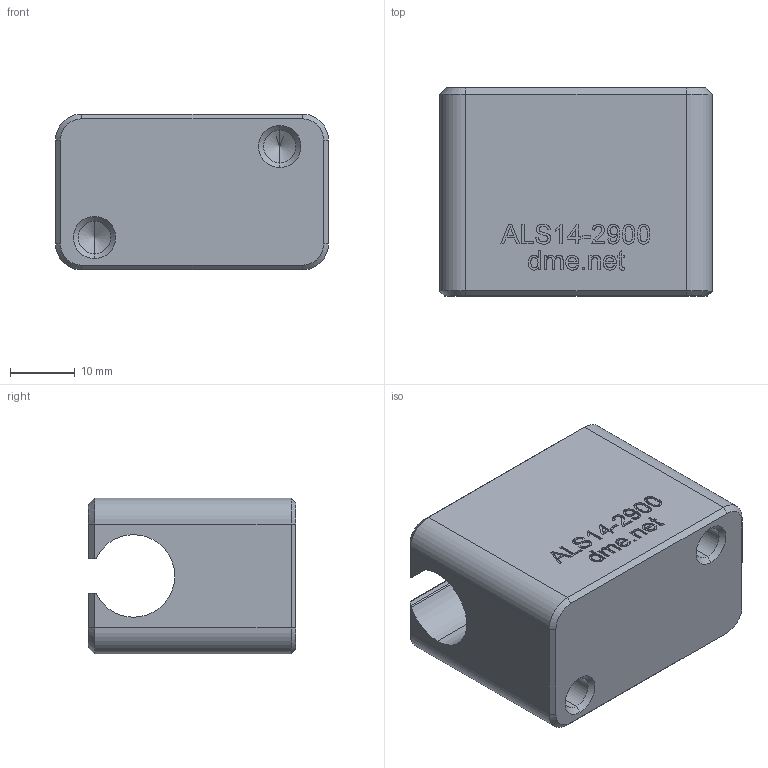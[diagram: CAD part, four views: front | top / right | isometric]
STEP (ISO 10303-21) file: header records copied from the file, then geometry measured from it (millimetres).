
FILE_DESCRIPTION (( 'STEP AP203' ), '1' );
FILE_NAME ('ALS14-2900.STEP', '2021-01-10T21:26:18', ( '' ), ( '' ), 'SwSTEP 2.0', 'SolidWorks 2020', '' );
FILE_SCHEMA (( 'CONFIG_CONTROL_DESIGN' ));
Length unit declared in the file: millimetre
Products named in the file (1): ALS14-2900
Bounding box: 42 x 32 x 24 mm (x, y, z)
Volume: 25801.6 mm3; surface area: 7260.2 mm2
Topology: 1 solids, 1 shells, 273 faces, 714 edges, 466 vertices
Faces by surface type: plane 137, bspline 105, cone 16, cylinder 15
Entity records: 14049 total; most frequent: CARTESIAN_POINT 7983, ORIENTED_EDGE 1420, DIRECTION 872, EDGE_CURVE 710, VERTEX_POINT 466, VECTOR 458, LINE 458, EDGE_LOOP 300
